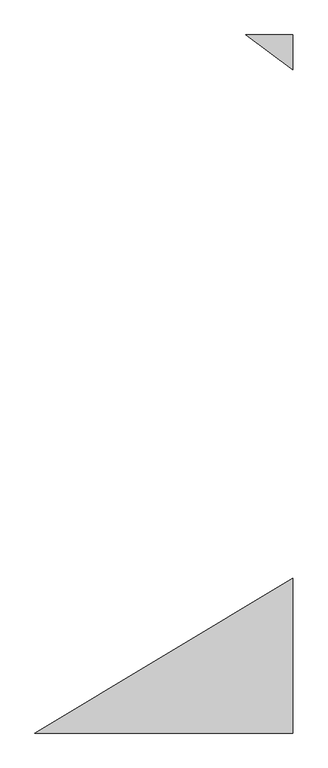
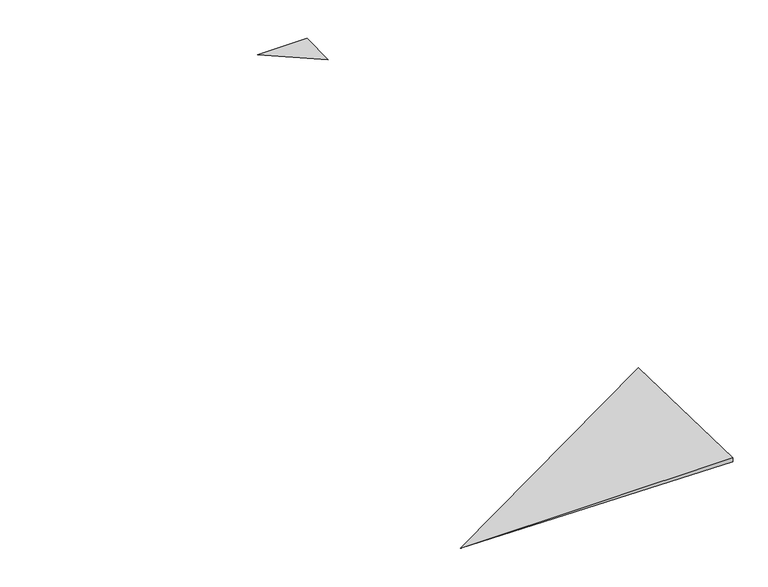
"""IFC4 building model written with IfcOpenShell, lengths in millimetres: proxy geometry, GM-Rf-S042 : GM-Rf-S04-2."""

import ifcopenshell
import ifcopenshell.guid

model = None  # the IFC model being written
_history = None  # IfcOwnerHistory: only IFC2X3 demands one
_inside = {}  # id of a spatial element -> (the spatial element, [elements in it])
_under = {}  # id of a project, library or spatial element -> (it, [spatial elements below it])
_declared = {}  # id of a project -> (the project, [libraries it declares])
_typed = {}  # id of a type object -> (the type object, [elements of that type])
_made_of = {}  # id of a material, layer set ... -> (it, [elements and type objects made of it])


def new_model(schema):
    """Start an empty IFC model of exactly this schema.

    Asked for "IFC4X3", IfcOpenShell would pick the latest addendum, in which some entities
    have other attributes; the version numbers below select the first issue.
    IFC2X3 requires an IfcOwnerHistory on every rooted entity: one is made here for all.
    """
    global model, _history
    if schema == "IFC4X3":
        model = ifcopenshell.file(schema_version=(4, 3, 0, 0))
    else:
        model = ifcopenshell.file(schema=schema)
    _inside.clear()
    _under.clear()
    _declared.clear()
    _typed.clear()
    _made_of.clear()
    _history = None
    if model.schema == "IFC2X3":
        org = make("IfcOrganization", Name="unknown")
        user = make(
            "IfcPersonAndOrganization",
            ThePerson=make("IfcPerson", FamilyName="unknown"),
            TheOrganization=org,
        )
        app = make(
            "IfcApplication",
            ApplicationDeveloper=org,
            Version="unknown",
            ApplicationFullName="unknown",
            ApplicationIdentifier="unknown",
        )
        _history = make(
            "IfcOwnerHistory",
            OwningUser=user,
            OwningApplication=app,
            ChangeAction="ADDED",
            CreationDate=0,
        )
    return model


def make(cls, **values):
    """One entity of the class cls with the attributes given. An attribute that is None is left unset."""
    return model.create_entity(
        cls, **{name: value for name, value in values.items() if value is not None}
    )


def rooted(cls, **values):
    """An entity with a GlobalId (a new one), such as an element, a storey or a relation."""
    return make(cls, GlobalId=ifcopenshell.guid.new(), OwnerHistory=_history, **values)


def si_unit(unit_type, name, prefix=None):
    """IfcSIUnit, for example si_unit("LENGTHUNIT", "METRE", prefix="MILLI")."""
    return make("IfcSIUnit", UnitType=unit_type, Prefix=prefix, Name=name)


def assignment(units):
    """IfcUnitAssignment: the units of a project."""
    return None if units is None else make("IfcUnitAssignment", Units=units)


def point(xyz):
    """IfcCartesianPoint."""
    return None if xyz is None else make("IfcCartesianPoint", Coordinates=xyz)


def direction(xyz):
    """IfcDirection."""
    return None if xyz is None else make("IfcDirection", DirectionRatios=xyz)


def frame(location, z_axis=None, x_axis=None):
    """IfcAxis2Placement3D, a coordinate frame: its origin and axes. An axis left out is left unset."""
    return make(
        "IfcAxis2Placement3D",
        Location=point(location),
        Axis=direction(z_axis),
        RefDirection=direction(x_axis),
    )


def origin():
    """The frame at (0, 0, 0) with its axes left unset."""
    return frame((0.0, 0.0, 0.0))


def place(relative_to, where):
    """IfcLocalPlacement: puts the frame where relative to a parent placement (None: the world)."""
    return make(
        "IfcLocalPlacement", PlacementRelTo=relative_to, RelativePlacement=where
    )


def context(
    kind, dimensions, precision=None, world=None, true_north=None, identifier=None
):
    """IfcGeometricRepresentationContext, for example the 3D "Model" context."""
    return make(
        "IfcGeometricRepresentationContext",
        ContextIdentifier=identifier,
        ContextType=kind,
        CoordinateSpaceDimension=dimensions,
        Precision=precision,
        WorldCoordinateSystem=world,
        TrueNorth=true_north,
    )


def project(units=None, contexts=None):
    """IfcProject with its units and contexts."""
    return rooted(
        "IfcProject",
        Name="project",
        RepresentationContexts=contexts,
        UnitsInContext=assignment(units),
    )


def spatial(cls, under=None, at=None, **own):
    """A site, building, storey or space (cls), placed at a placement, below another one or the project."""
    s = rooted(cls, ObjectPlacement=at, **own)
    if under is not None:
        _under.setdefault(under.id(), (under, []))[1].append(s)
    return s


def faces_of(points, faces, orient=None, outer=None):
    """IfcFace entities. A face is a list of loops; a loop is a list of indices into points, from 0.

    orient and outer hold one flag for each loop. By default every Orientation is true, the
    first loop of a face is its IfcFaceOuterBound and the others are IfcFaceBound.
    """
    made = []
    for i, loops in enumerate(faces):
        bounds = []
        for j, loop in enumerate(loops):
            is_outer = j == 0 if outer is None else outer[i][j]
            bounds.append(
                make(
                    "IfcFaceOuterBound" if is_outer else "IfcFaceBound",
                    Bound=make("IfcPolyLoop", Polygon=[points[k] for k in loop]),
                    Orientation=True if orient is None else orient[i][j],
                )
            )
        made.append(make("IfcFace", Bounds=bounds))
    return made


def faceted_brep(points, faces, orient=None, outer=None, voids=None):
    """IfcFacetedBrep: a solid bounded by flat faces; with voids (closed shells), ...WithVoids."""
    shared = [point(p) for p in points]
    hull = make("IfcClosedShell", CfsFaces=faces_of(shared, faces, orient, outer))
    if voids is None:
        return make("IfcFacetedBrep", Outer=hull)
    return make(
        "IfcFacetedBrepWithVoids",
        Outer=hull,
        Voids=[
            make(cls, CfsFaces=faces_of(shared, fs, o, b)) for cls, fs, o, b in voids
        ],
    )


def shape(context_of_items, identifier, shape_type, items):
    """IfcShapeRepresentation: the items that make up one representation, for example the "Body"."""
    return make(
        "IfcShapeRepresentation",
        ContextOfItems=context_of_items,
        RepresentationIdentifier=identifier,
        RepresentationType=shape_type,
        Items=items,
    )


def source(mapping_origin, context_of_items, identifier, shape_type, items):
    """IfcRepresentationMap: a shape defined once, which mapped items show again and again."""
    return make(
        "IfcRepresentationMap",
        MappingOrigin=mapping_origin,
        MappedRepresentation=shape(context_of_items, identifier, shape_type, items),
    )


def transform(
    local_origin,
    x_axis=None,
    y_axis=None,
    z_axis=None,
    scale=None,
    scale2=None,
    scale3=None,
    uniform=True,
):
    """IfcCartesianTransformationOperator3D, or its non-uniform kind. x_axis, y_axis, z_axis: its Axis1, 2, 3."""
    if uniform:
        return make(
            "IfcCartesianTransformationOperator3D",
            Axis1=direction(x_axis),
            Axis2=direction(y_axis),
            LocalOrigin=point(local_origin),
            Scale=scale,
            Axis3=direction(z_axis),
        )
    return make(
        "IfcCartesianTransformationOperator3DnonUniform",
        Axis1=direction(x_axis),
        Axis2=direction(y_axis),
        LocalOrigin=point(local_origin),
        Scale=scale,
        Axis3=direction(z_axis),
        Scale2=scale2,
        Scale3=scale3,
    )


def mapped(mapping_source, mapping_target):
    """IfcMappedItem: shows the shape of a source again, moved by a transform."""
    return make(
        "IfcMappedItem", MappingSource=mapping_source, MappingTarget=mapping_target
    )


def made_of(thing, what):
    """Note that an element or type object is made of a material, layer set ...; save() writes the relation."""
    if what is not None:
        _made_of.setdefault(what.id(), (what, []))[1].append(thing)
    return thing


def element(
    cls,
    number,
    at=None,
    inside=None,
    cuts=None,
    type_object=None,
    material=None,
    context=None,
    identifier="Body",
    shape_type=None,
    held_by="IfcProductDefinitionShape",
    body=None,
    shapes=None,
    **own,
):
    """One element of the class cls, such as IfcWall. Its Tag is "e" and its number.

    at: its placement. inside: the storey or other place that contains it. cuts: it is an
    opening in that element (IfcRelVoidsElement). A single representation is given by context,
    identifier, shape_type and body (its items); several are given by shapes. held_by: the class
    of the entity that holds the representations. save() writes the other relations.
    """
    e = rooted(cls, Tag="e%d" % number, ObjectPlacement=at, **own)
    if body is not None:
        shapes = [shape(context, identifier, shape_type, body)]
    if shapes is not None:
        e.Representation = make(held_by, Representations=shapes)
    if inside is not None:
        _inside.setdefault(inside.id(), (inside, []))[1].append(e)
    if cuts is not None:
        rooted(
            "IfcRelVoidsElement", RelatingBuildingElement=cuts, RelatedOpeningElement=e
        )
    if type_object is not None:
        _typed.setdefault(type_object.id(), (type_object, []))[1].append(e)
    return made_of(e, material)


def aggregate(whole, parts):
    """IfcRelAggregates: a whole, such as a stair, and the parts it consists of."""
    return rooted("IfcRelAggregates", RelatingObject=whole, RelatedObjects=parts)


def save(model, path):
    """Write the relations noted so far, then the file.

    IfcRelAggregates (storeys below a building ...), IfcRelContainedInSpatialStructure (elements
    in a storey), IfcRelDefinesByType, IfcRelAssociatesMaterial and IfcRelDeclares: one each for
    every whole, place, type object, material and project.
    """
    for whole, parts in _under.values():
        aggregate(whole, parts)
    for where, things in _inside.values():
        rooted(
            "IfcRelContainedInSpatialStructure",
            RelatedElements=things,
            RelatingStructure=where,
        )
    for kind, things in _typed.values():
        rooted("IfcRelDefinesByType", RelatedObjects=things, RelatingType=kind)
    for what, things in _made_of.values():
        rooted("IfcRelAssociatesMaterial", RelatedObjects=things, RelatingMaterial=what)
    for by, libraries in _declared.values():
        rooted("IfcRelDeclares", RelatingContext=by, RelatedDefinitions=libraries)
    model.write(path)


def generic_models_5a5dcbb2(model_context):
    return source(origin(), model_context, "Body", "Brep", [
        faceted_brep([(134020.0000001, 114503.9999987, 28787.4), (134020.0000001, 111599.9999987, 28860.0), (134020.0000001, 111599.9999987, 28787.4), (129180.0000001, 111599.9999987, 28860.0)], [[[0, 1, 2]], [[1, 3, 2]], [[3, 1, 0]], [[0, 2, 3]]]),
        faceted_brep([(134020.0000001, 124699.9999987, 28800.6818182), (134020.0000001, 124699.9999987, 28787.4), (133134.5454547, 124699.9999987, 28800.6818182), (134020.0000001, 124050.6666654, 28787.4)], [[[0, 1, 2]], [[3, 0, 2]], [[0, 3, 1]], [[1, 3, 2]]]),
    ])


if __name__ == "__main__":
    model = new_model("IFC4")
    model_context = context("Model", 3, world=origin())
    ifc_project = project(units=[si_unit("LENGTHUNIT", "METRE", prefix="MILLI")], contexts=[model_context])
    site = spatial("IfcSite", under=ifc_project)
    building = spatial("IfcBuilding", under=site)
    placement = place(None, origin())
    generic_models_shape = generic_models_5a5dcbb2(model_context)
    element("IfcBuildingElementProxy", 1, Name="GM-Rf-S042 : GM-Rf-S04-2", ObjectType="GM-Rf-S042 : GM-Rf-S04-2", at=placement, inside=building, context=model_context, shape_type="MappedRepresentation", body=[
        mapped(generic_models_shape, transform((0.0, 0.0, 0.0), x_axis=(1.0, 0.0, 0.0), y_axis=(0.0, 1.0, 0.0), z_axis=(0.0, 0.0, 1.0))),
    ])
    save(model, "model.ifc")
